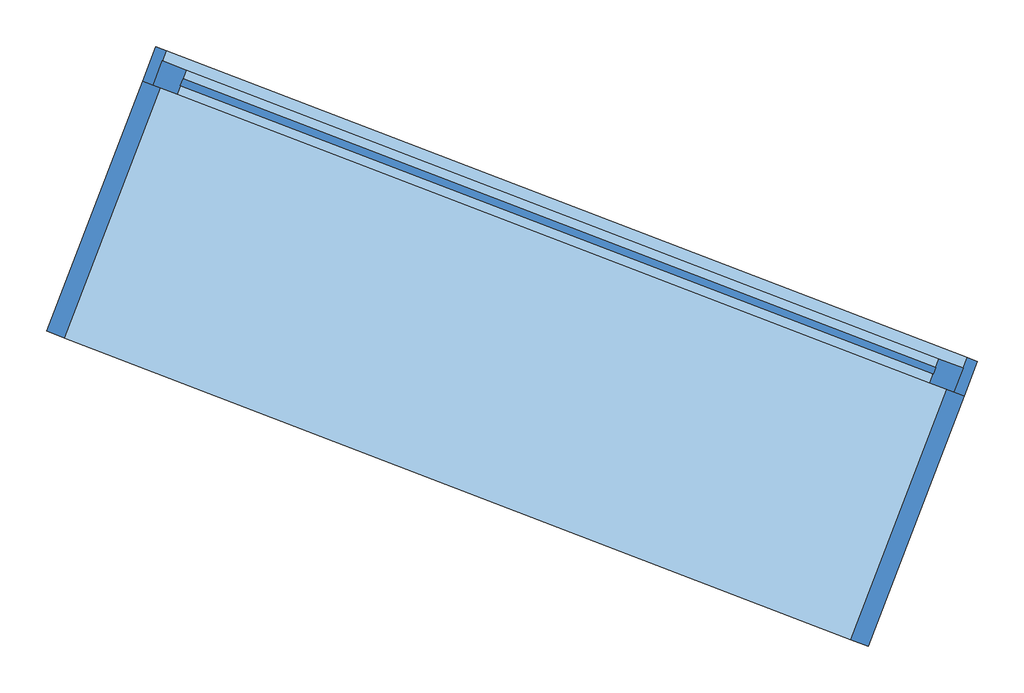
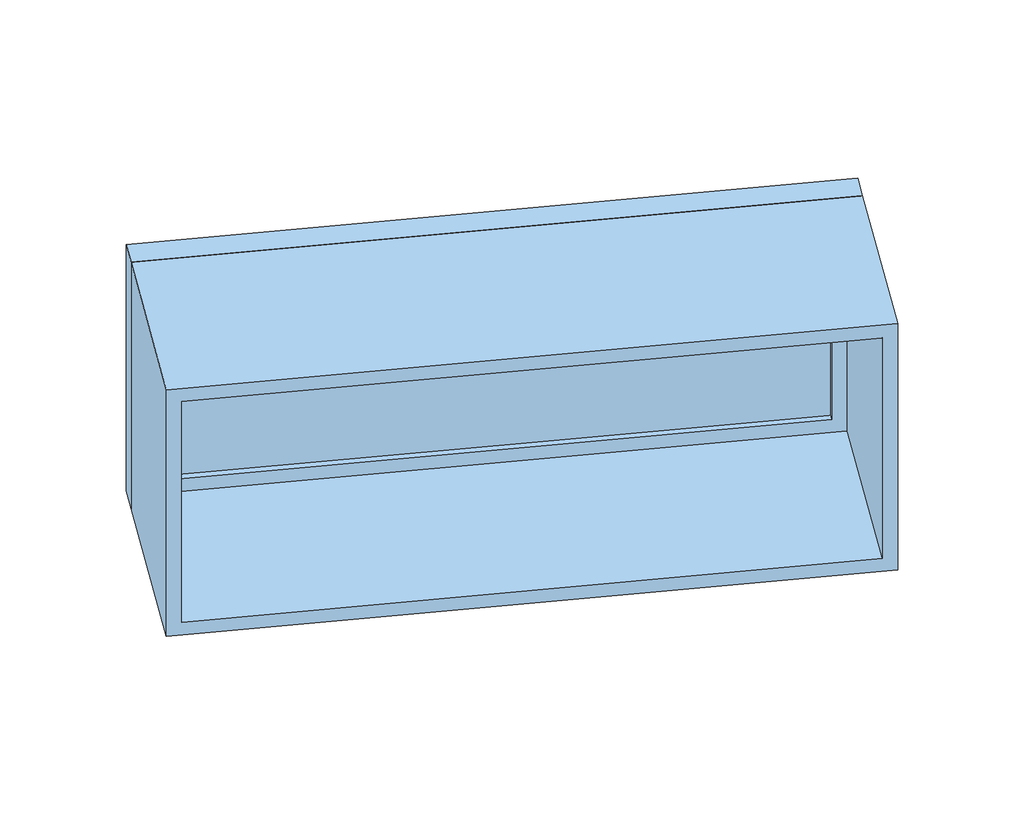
# One storey: 1 window.
"""IFC4 building model written with IfcOpenShell, lengths in millimetres."""

from ifc_helpers import new_model, si_unit, origin, place, context, project, spatial, transform, mapped, element, save
from components import window_ca35e3a4

model = new_model("IFC4")

# Units and contexts
model_context = context("Model", 3, world=origin())
ifc_project = project(units=[si_unit("LENGTHUNIT", "METRE", prefix="MILLI")], contexts=[model_context])

# Site, building, storey
site = spatial("IfcSite", under=ifc_project)
building = spatial("IfcBuilding", under=site)
storey = spatial("IfcBuildingStorey", under=building, Name="Уровень 3", Elevation=2000.0)

# Window
placement = place(None, origin())
window_shape = window_ca35e3a4(model_context)
element("IfcWindow", 1, ObjectType="M_Неподвижный : 0915 x 0610 мм", at=placement, inside=storey, context=model_context, shape_type="MappedRepresentation", body=[
    mapped(window_shape, transform((4273.9240599, 20851.1724391, 2000.0), x_axis=(0.9335804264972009, -0.35836794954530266, 0.0), y_axis=(0.35836794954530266, 0.9335804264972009, 0.0), z_axis=(0.0, 0.0, 1.0))),
])

save(model, "model.ifc")
